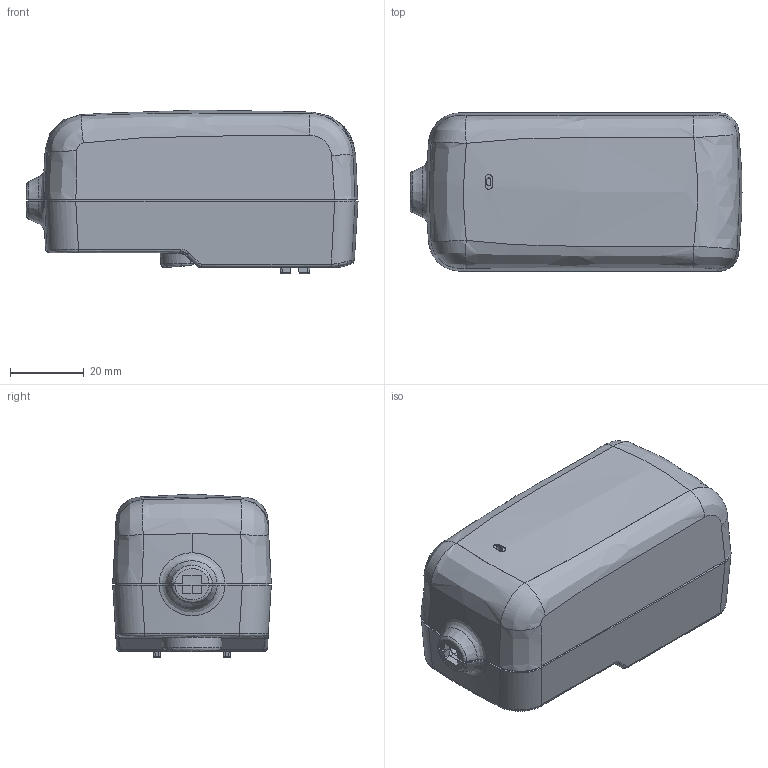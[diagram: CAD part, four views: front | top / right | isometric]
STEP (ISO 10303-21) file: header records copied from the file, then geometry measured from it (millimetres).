
FILE_DESCRIPTION (( 'STEP AP214' ), '1' );
FILE_NAME ('VER24 body.STEP', '2018-11-26T16:56:16', ( '' ), ( '' ), 'SwSTEP 2.0', 'SolidWorks 2018', '' );
FILE_SCHEMA (( 'AUTOMOTIVE_DESIGN' ));
Length unit declared in the file: inch
Products named in the file (5): FIXED_POSITION-ID_1; AC-BOT_2; VER24 body; AC-BOT_ASM_2_ASM; TOP_1
Assembly tree (4 placements, depth 3):
  VER24 body
    AC-BOT_ASM_2_ASM
      AC-BOT_2
      FIXED_POSITION-ID_1
      TOP_1
Bounding box: 90 x 43 x 44.36 mm (x, y, z)
Volume: 15565.5 mm3; surface area: 37488.9 mm2
Topology: 2 solids, 6 shells, 1049 faces, 2856 edges, 1825 vertices
Faces by surface type: plane 471, cylinder 253, bspline 253, cone 70, torus 2
Entity records: 51116 total; most frequent: CARTESIAN_POINT 28776, ORIENTED_EDGE 5688, DIRECTION 2985, EDGE_CURVE 2852, VERTEX_POINT 1825, B_SPLINE_CURVE_WITH_KNOTS 1488, VECTOR 1095, LINE 1095
